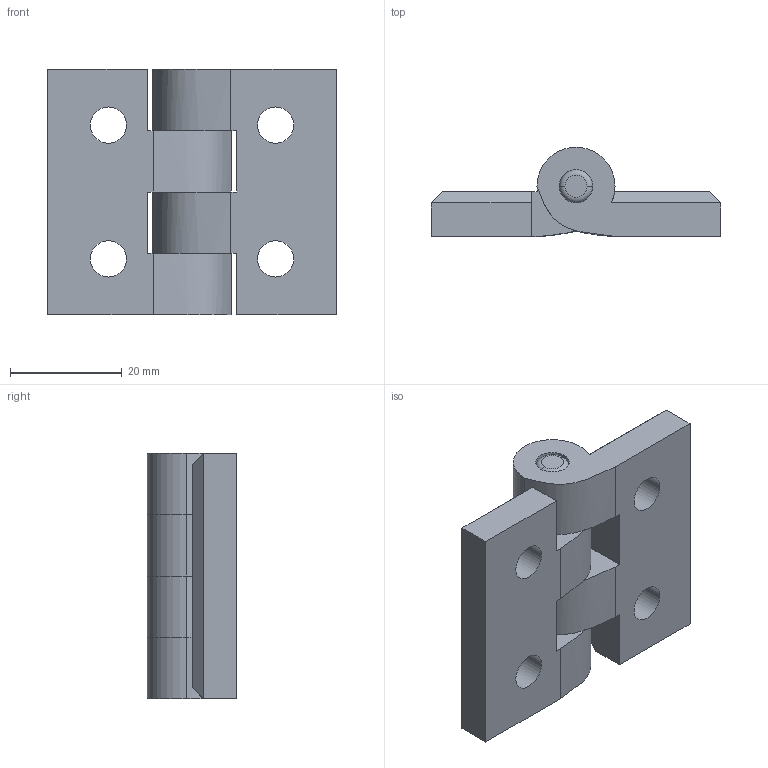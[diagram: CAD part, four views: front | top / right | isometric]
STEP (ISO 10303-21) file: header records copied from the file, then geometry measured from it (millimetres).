
FILE_DESCRIPTION (( 'STEP AP203' ), '1' );
FILE_NAME ('203-CE-HG-30.STEP', '2015-07-09T09:24:23', ( '' ), ( '' ), 'SwSTEP 2.0', 'SolidWorks 2013', '' );
FILE_SCHEMA (( 'CONFIG_CONTROL_DESIGN' ));
Length unit declared in the file: millimetre
Products named in the file (1): 203-CE-HG-30
Bounding box: 51.86 x 16 x 44 mm (x, y, z)
Surface area: 8520.4 mm2 (no closed solid volume)
Topology: 0 solids, 4 shells, 64 faces, 170 edges, 112 vertices
Faces by surface type: plane 28, cylinder 20, cone 8, bspline 4, torus 4
Entity records: 2142 total; most frequent: CARTESIAN_POINT 421, DIRECTION 350, ORIENTED_EDGE 328, EDGE_CURVE 170, AXIS2_PLACEMENT_3D 129, VERTEX_POINT 112, VECTOR 92, LINE 92
